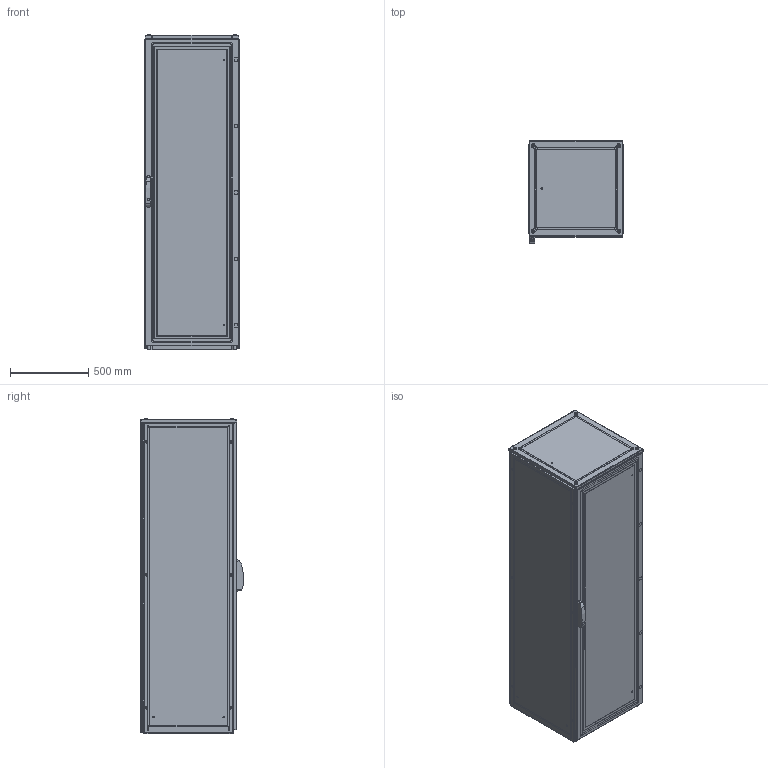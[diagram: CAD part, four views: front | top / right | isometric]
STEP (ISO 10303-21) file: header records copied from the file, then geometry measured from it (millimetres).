
FILE_DESCRIPTION(/* description */ ('STEP AP214'),/* implementation_level */ '2;1');
FILE_NAME(/* name */ 'ENUX062006PR-LOD350',/* time_stamp */ '2025-08-05T13:25:34+02:00',/* author */ ('License CC BY-ND 4.0'),/* organization */ ('CADENAS'),/* preprocessor_version */ 'ST-DEVELOPER v19.3',/* originating_system */ 'PARTsolutions',/* authorisation */ ' ');
FILE_SCHEMA (('AUTOMOTIVE_DESIGN {1 0 10303 214 3 1 1}'));
Length unit declared in the file: millimetre
Products named in the file (10): ENUX062006PR-LOD350; ENUX062006PR-LOD350_CON; ENUX062006PR-LOD350_floor1; ENUX062006PR-LOD350_floor2; Screw M12x30 architecture 350; ENUX062006PR-LOD350_side; ENUX062006PR-LOD350_top; ENUX062006PR-LOD350_back_door; ENUX062006PR-LOD350_door; ENUX062006PR-LOD350_handle
Assembly tree (16 placements, depth 2):
  ENUX062006PR-LOD350
    ENUX062006PR-LOD350_CON
    ENUX062006PR-LOD350_floor1  x2
    ENUX062006PR-LOD350_floor2  x3
    Screw M12x30 architecture 350  x4
    ENUX062006PR-LOD350_side  x2
    ENUX062006PR-LOD350_top
    ENUX062006PR-LOD350_back_door
    ENUX062006PR-LOD350_door
    ENUX062006PR-LOD350_handle
Bounding box: 612 x 657 x 2014.1 mm (x, y, z)
Volume: 19559655.6 mm3; surface area: 16743338 mm2
Topology: 16 solids, 16 shells, 1796 faces, 5047 edges, 3292 vertices
Faces by surface type: plane 896, cylinder 735, cone 77, torus 72, sphere 16
Full cylindrical faces by diameter (mm): 4.5 x132, 6 x14, 6.8 x8, 9 x9, 12 x16, 13 x4, 18 x1, 21 x4
Entity records: 47411 total; most frequent: CARTESIAN_POINT 8211, DIRECTION 8209, ORIENTED_EDGE 7704, EDGE_CURVE 3852, AXIS2_PLACEMENT_3D 2932, VERTEX_POINT 2693, LINE 2345, VECTOR 2345
